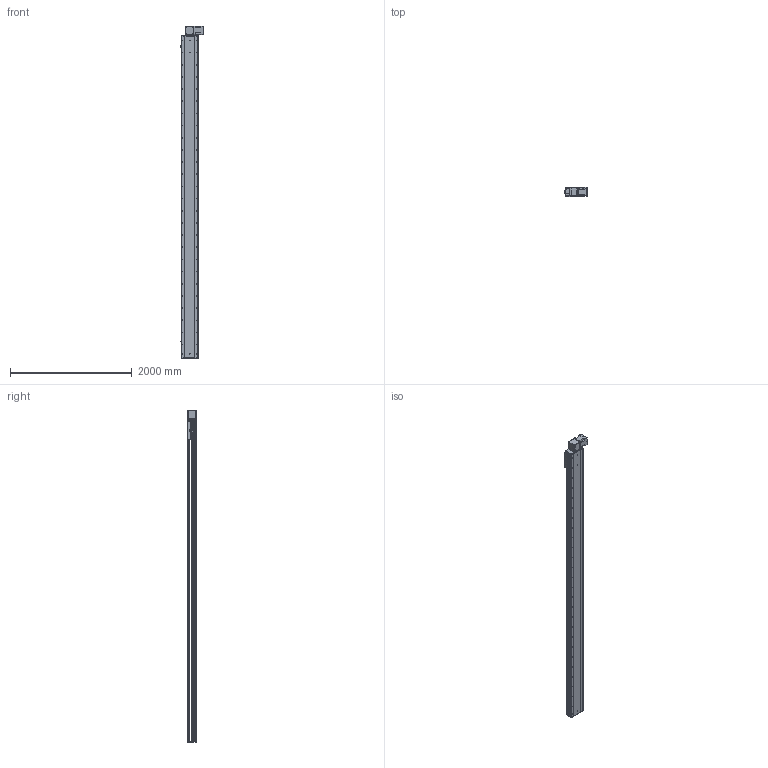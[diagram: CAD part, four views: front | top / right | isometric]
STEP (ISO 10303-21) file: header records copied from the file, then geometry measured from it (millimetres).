
FILE_DESCRIPTION (( 'STEP AP214' ), '1' );
FILE_NAME ('RTB28S-XX-4850-BL-M100-XX-C4.STEP', '2025-12-22T02:48:53', ( '' ), ( '' ), 'SwSTEP 2.0', 'SolidWorks 2018', '' );
FILE_SCHEMA (( 'AUTOMOTIVE_DESIGN' ));
Length unit declared in the file: millimetre
Products named in the file (4): RTB28S-XX-4850-BL-M100-XX-C4; RTB28S-GY-004^RTB28S-XX-XX-BL-M100-XX-C4; RTB28S-GY-011^RTB28S-XX-XX-BL-M100-XX-C4; RTB28S-GY-008^RTB28S-XX-XX-BL-M100-XX-C4
Assembly tree (3 placements, depth 2):
  RTB28S-XX-4850-BL-M100-XX-C4
    RTB28S-GY-011^RTB28S-XX-XX-BL-M100-XX-C4
    RTB28S-GY-004^RTB28S-XX-XX-BL-M100-XX-C4
    RTB28S-GY-008^RTB28S-XX-XX-BL-M100-XX-C4
Bounding box: 380.7 x 145 x 5457 mm (x, y, z)
Volume: 90246544 mm3; surface area: 8332135.2 mm2
Topology: 3 solids, 4 shells, 978 faces, 2658 edges, 1708 vertices
Faces by surface type: cylinder 511, plane 383, cone 80, torus 4
Entity records: 38747 total; most frequent: CARTESIAN_POINT 7852, DIRECTION 5676, ORIENTED_EDGE 5252, EDGE_CURVE 2626, AXIS2_PLACEMENT_3D 2128, VERTEX_POINT 1708, LINE 1420, VECTOR 1420
